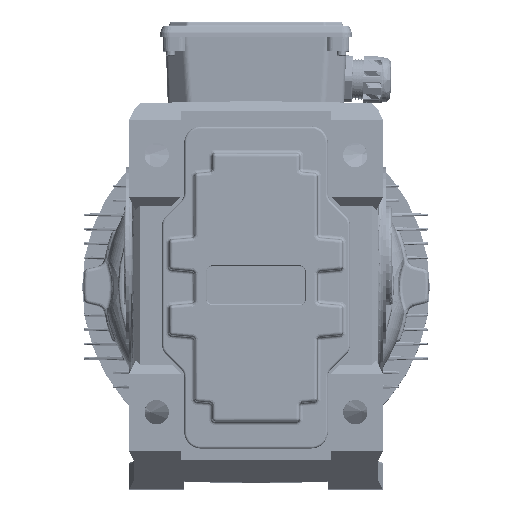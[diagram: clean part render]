
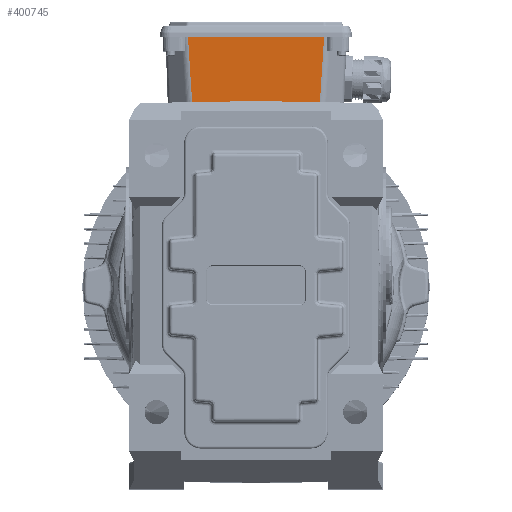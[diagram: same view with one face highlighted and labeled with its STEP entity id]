
A CAD part, top view. The second image highlights one B-rep face of the part: STEP entity #400745.
In plain terms, the highlighted planar face has unit normal (0, -0.035, 0.999) as drawn and (-0.999, -0.035, 0) by its records, which use the part's own axes.
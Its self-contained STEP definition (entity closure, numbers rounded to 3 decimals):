
#1221 = EDGE_CURVE ( 'NONE', #372788, #355093, #350708, .T. ) ;
#4727 = EDGE_CURVE ( 'NONE', #264020, #67468, #8340, .T. ) ;
#8340 = LINE ( 'NONE', #136780, #319396 ) ;
#15144 = AXIS2_PLACEMENT_3D ( 'NONE', #368466, #301204, #208627 ) ;
#25019 = EDGE_LOOP ( 'NONE', ( #156366, #95520, #366525, #132638, #151174, #94032, #370272, #375744 ) ) ;
#33987 = CARTESIAN_POINT ( 'NONE',  ( 180.89, 226., -61.68 ) ) ;
#49960 = EDGE_CURVE ( 'NONE', #373487, #371954, #286314, .T. ) ;
#53117 = VERTEX_POINT ( 'NONE', #172655 ) ;
#63709 = CARTESIAN_POINT ( 'NONE',  ( 182.234, 187.521, -49.069 ) ) ;
#67468 = VERTEX_POINT ( 'NONE', #374450 ) ;
#69255 = VECTOR ( 'NONE', #283478, 1000. ) ;
#94021 = LINE ( 'NONE', #314977, #101405 ) ;
#94032 = ORIENTED_EDGE ( 'NONE', *, *, #325787, .T. ) ;
#95520 = ORIENTED_EDGE ( 'NONE', *, *, #179242, .T. ) ;
#100727 = VECTOR ( 'NONE', #316327, 1000. ) ;
#101405 = VECTOR ( 'NONE', #277230, 1000. ) ;
#112838 = EDGE_CURVE ( 'NONE', #355093, #335612, #254308, .T. ) ;
#122152 = EDGE_CURVE ( 'NONE', #371954, #67468, #358164, .T. ) ;
#132638 = ORIENTED_EDGE ( 'NONE', *, *, #1221, .T. ) ;
#136780 = CARTESIAN_POINT ( 'NONE',  ( 183.178, 160.483, -64.615 ) ) ;
#145806 = EDGE_CURVE ( 'NONE', #53117, #372788, #261586, .T. ) ;
#147049 = CARTESIAN_POINT ( 'NONE',  ( 183.178, 160.483, -57.489 ) ) ;
#151174 = ORIENTED_EDGE ( 'NONE', *, *, #112838, .T. ) ;
#156366 = ORIENTED_EDGE ( 'NONE', *, *, #49960, .F. ) ;
#161878 = CARTESIAN_POINT ( 'NONE',  ( 180.89, 226., 61.68 ) ) ;
#172655 = CARTESIAN_POINT ( 'NONE',  ( 183.178, 160.483, 48.125 ) ) ;
#173539 = LINE ( 'NONE', #413145, #100727 ) ;
#179242 = EDGE_CURVE ( 'NONE', #373487, #53117, #94021, .T. ) ;
#184697 = CARTESIAN_POINT ( 'NONE',  ( 183.178, 160.483, 57.489 ) ) ;
#200430 = DIRECTION ( 'NONE',  ( -0.035, 0.999, -0.035 ) ) ;
#201881 = CARTESIAN_POINT ( 'NONE',  ( 183.248, 158.483, 48.055 ) ) ;
#208627 = DIRECTION ( 'NONE',  ( 0.035, -0.999, 0. ) ) ;
#210579 = CARTESIAN_POINT ( 'NONE',  ( 183.248, 158.483, -48.055 ) ) ;
#236069 = FACE_OUTER_BOUND ( 'NONE', #25019, .T. ) ;
#238645 = VECTOR ( 'NONE', #259512, 1000. ) ;
#254308 = LINE ( 'NONE', #382618, #284202 ) ;
#256830 = DIRECTION ( 'NONE',  ( 0., 0., 1. ) ) ;
#258424 = DIRECTION ( 'NONE',  ( 0., 0., -1. ) ) ;
#259512 = DIRECTION ( 'NONE',  ( 0., 0., 1. ) ) ;
#261586 = LINE ( 'NONE', #407498, #238645 ) ;
#264020 = VERTEX_POINT ( 'NONE', #147049 ) ;
#277230 = DIRECTION ( 'NONE',  ( -0.035, 0.999, 0.035 ) ) ;
#283478 = DIRECTION ( 'NONE',  ( -0.035, 0.997, 0.064 ) ) ;
#284202 = VECTOR ( 'NONE', #258424, 1000. ) ;
#286314 = LINE ( 'NONE', #414703, #327981 ) ;
#293444 = VECTOR ( 'NONE', #200430, 1000. ) ;
#301204 = DIRECTION ( 'NONE',  ( -0.999, -0.035, 0. ) ) ;
#303279 = PLANE ( 'NONE',  #15144 ) ;
#314977 = CARTESIAN_POINT ( 'NONE',  ( 183.248, 158.483, 48.055 ) ) ;
#316327 = DIRECTION ( 'NONE',  ( 0.035, -0.997, 0.064 ) ) ;
#319396 = VECTOR ( 'NONE', #256830, 1000. ) ;
#325787 = EDGE_CURVE ( 'NONE', #335612, #264020, #173539, .T. ) ;
#327981 = VECTOR ( 'NONE', #383113, 1000. ) ;
#335612 = VERTEX_POINT ( 'NONE', #33987 ) ;
#350708 = LINE ( 'NONE', #184697, #69255 ) ;
#355093 = VERTEX_POINT ( 'NONE', #161878 ) ;
#358164 = LINE ( 'NONE', #63709, #293444 ) ;
#366525 = ORIENTED_EDGE ( 'NONE', *, *, #145806, .T. ) ;
#368466 = CARTESIAN_POINT ( 'NONE',  ( 181.1, 220., -64.615 ) ) ;
#370272 = ORIENTED_EDGE ( 'NONE', *, *, #4727, .T. ) ;
#371954 = VERTEX_POINT ( 'NONE', #210579 ) ;
#372788 = VERTEX_POINT ( 'NONE', #373061 ) ;
#373061 = CARTESIAN_POINT ( 'NONE',  ( 183.178, 160.483, 57.489 ) ) ;
#373487 = VERTEX_POINT ( 'NONE', #201881 ) ;
#374450 = CARTESIAN_POINT ( 'NONE',  ( 183.178, 160.483, -48.125 ) ) ;
#375744 = ORIENTED_EDGE ( 'NONE', *, *, #122152, .F. ) ;
#382618 = CARTESIAN_POINT ( 'NONE',  ( 180.89, 226., -64.615 ) ) ;
#383113 = DIRECTION ( 'NONE',  ( 0., 0., -1. ) ) ;
#400745 = ADVANCED_FACE ( 'NONE', ( #236069 ), #303279, .T. ) ;
#407498 = CARTESIAN_POINT ( 'NONE',  ( 183.178, 160.483, -64.615 ) ) ;
#413145 = CARTESIAN_POINT ( 'NONE',  ( 180.89, 226., -61.68 ) ) ;
#414703 = CARTESIAN_POINT ( 'NONE',  ( 183.248, 158.483, -32.307 ) ) ;
